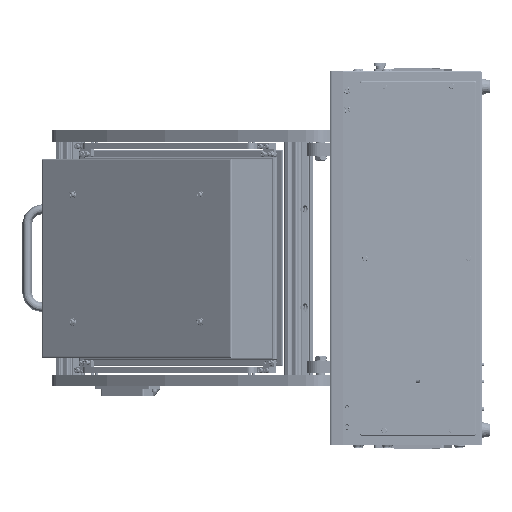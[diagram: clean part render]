
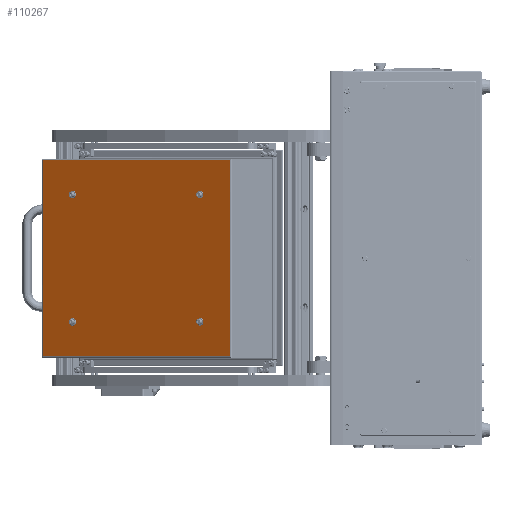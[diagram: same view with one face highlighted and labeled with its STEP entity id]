
A CAD part, left-side view. The second image highlights one B-rep face of the part: STEP entity #110267.
In plain terms, the highlighted planar face has unit normal (-0.819, 0.574, 0) as drawn and (0, 0, -1) by its records, which use the part's own axes.
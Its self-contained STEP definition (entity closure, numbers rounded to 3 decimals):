
#2339 = CARTESIAN_POINT ( 'NONE',  ( 80.75, 252.5, -102. ) ) ;
#3651 = FACE_BOUND ( 'NONE', #127954, .T. ) ;
#6532 = ORIENTED_EDGE ( 'NONE', *, *, #79761, .F. ) ;
#15779 = DIRECTION ( 'NONE',  ( 0., 0., -1. ) ) ;
#19700 = EDGE_CURVE ( 'NONE', #120545, #231350, #115172, .T. ) ;
#22842 = CIRCLE ( 'NONE', #53194, 2.25 ) ;
#27577 = DIRECTION ( 'NONE',  ( 1., 0., 0. ) ) ;
#28135 = ORIENTED_EDGE ( 'NONE', *, *, #161554, .F. ) ;
#29169 = VERTEX_POINT ( 'NONE', #233853 ) ;
#29244 = EDGE_LOOP ( 'NONE', ( #112677, #6532 ) ) ;
#34181 = CARTESIAN_POINT ( 'NONE',  ( 85.25, 252.5, -102. ) ) ;
#34829 = DIRECTION ( 'NONE',  ( -1., 0., 0. ) ) ;
#36969 = ORIENTED_EDGE ( 'NONE', *, *, #67360, .F. ) ;
#38179 = CARTESIAN_POINT ( 'NONE',  ( -128., 2., -102. ) ) ;
#49211 = CARTESIAN_POINT ( 'NONE',  ( 128., 2., -102. ) ) ;
#49841 = CARTESIAN_POINT ( 'NONE',  ( -130., 2., -102. ) ) ;
#50093 = CIRCLE ( 'NONE', #235250, 2.25 ) ;
#52053 = EDGE_LOOP ( 'NONE', ( #28135, #36969 ) ) ;
#53194 = AXIS2_PLACEMENT_3D ( 'NONE', #249598, #247684, #142038 ) ;
#54207 = FACE_BOUND ( 'NONE', #191161, .T. ) ;
#54550 = EDGE_CURVE ( 'NONE', #121138, #120545, #70105, .T. ) ;
#57553 = DIRECTION ( 'NONE',  ( 0., 0., -1. ) ) ;
#58144 = AXIS2_PLACEMENT_3D ( 'NONE', #59351, #272670, #251917 ) ;
#59351 = CARTESIAN_POINT ( 'NONE',  ( -83., 252.5, -102. ) ) ;
#63270 = CARTESIAN_POINT ( 'NONE',  ( 128., 302., -102. ) ) ;
#67360 = EDGE_CURVE ( 'NONE', #118891, #181905, #50093, .T. ) ;
#69364 = VERTEX_POINT ( 'NONE', #34181 ) ;
#70105 = LINE ( 'NONE', #63270, #198348 ) ;
#77289 = CARTESIAN_POINT ( 'NONE',  ( 83., 252.5, -102. ) ) ;
#79761 = EDGE_CURVE ( 'NONE', #69364, #202149, #124212, .T. ) ;
#80881 = DIRECTION ( 'NONE',  ( 0., 0., -1. ) ) ;
#83994 = EDGE_CURVE ( 'NONE', #117389, #29169, #119430, .T. ) ;
#84130 = ORIENTED_EDGE ( 'NONE', *, *, #204993, .F. ) ;
#85510 = AXIS2_PLACEMENT_3D ( 'NONE', #205550, #186573, #248879 ) ;
#87402 = CARTESIAN_POINT ( 'NONE',  ( -83., 49.5, -102. ) ) ;
#88847 = CARTESIAN_POINT ( 'NONE',  ( -80.75, 49.5, -102. ) ) ;
#89268 = DIRECTION ( 'NONE',  ( 0., 0., -1. ) ) ;
#91592 = DIRECTION ( 'NONE',  ( -1., 0., 0. ) ) ;
#99354 = CIRCLE ( 'NONE', #204366, 2.25 ) ;
#99616 = EDGE_LOOP ( 'NONE', ( #218861, #242555, #184625, #141741 ) ) ;
#99686 = CARTESIAN_POINT ( 'NONE',  ( -130., 300., -102. ) ) ;
#101363 = EDGE_CURVE ( 'NONE', #231350, #222875, #170541, .T. ) ;
#101474 = FACE_BOUND ( 'NONE', #29244, .T. ) ;
#103401 = CARTESIAN_POINT ( 'NONE',  ( 83., 252.5, -102. ) ) ;
#105749 = LINE ( 'NONE', #99686, #176812 ) ;
#110254 = CARTESIAN_POINT ( 'NONE',  ( -85.25, 49.5, -102. ) ) ;
#110267 = ADVANCED_FACE ( 'NONE', ( #226505, #3651, #169132, #101474, #54207 ), #115236, .F. ) ;
#112677 = ORIENTED_EDGE ( 'NONE', *, *, #244384, .F. ) ;
#112920 = VECTOR ( 'NONE', #210888, 1000. ) ;
#114145 = DIRECTION ( 'NONE',  ( 0., 0., -1. ) ) ;
#115172 = LINE ( 'NONE', #49841, #196352 ) ;
#115236 = PLANE ( 'NONE',  #242995 ) ;
#117389 = VERTEX_POINT ( 'NONE', #145242 ) ;
#118891 = VERTEX_POINT ( 'NONE', #144254 ) ;
#119430 = CIRCLE ( 'NONE', #85510, 2.25 ) ;
#120545 = VERTEX_POINT ( 'NONE', #49211 ) ;
#121138 = VERTEX_POINT ( 'NONE', #137561 ) ;
#123263 = DIRECTION ( 'NONE',  ( 1., 0., 0. ) ) ;
#124212 = CIRCLE ( 'NONE', #250990, 2.25 ) ;
#124361 = CIRCLE ( 'NONE', #58144, 2.25 ) ;
#127429 = DIRECTION ( 'NONE',  ( 0., -1., 0. ) ) ;
#127954 = EDGE_LOOP ( 'NONE', ( #84130, #164700 ) ) ;
#128143 = CIRCLE ( 'NONE', #150905, 2.25 ) ;
#128644 = AXIS2_PLACEMENT_3D ( 'NONE', #87402, #89268, #175258 ) ;
#136439 = ORIENTED_EDGE ( 'NONE', *, *, #203518, .F. ) ;
#137561 = CARTESIAN_POINT ( 'NONE',  ( 128., 300., -102. ) ) ;
#141741 = ORIENTED_EDGE ( 'NONE', *, *, #268357, .T. ) ;
#142038 = DIRECTION ( 'NONE',  ( -1., 0., 0. ) ) ;
#144254 = CARTESIAN_POINT ( 'NONE',  ( 85.25, 49.5, -102. ) ) ;
#145242 = CARTESIAN_POINT ( 'NONE',  ( -80.75, 252.5, -102. ) ) ;
#148876 = CIRCLE ( 'NONE', #128644, 2.25 ) ;
#150905 = AXIS2_PLACEMENT_3D ( 'NONE', #229237, #80881, #273549 ) ;
#161554 = EDGE_CURVE ( 'NONE', #181905, #118891, #22842, .T. ) ;
#164700 = ORIENTED_EDGE ( 'NONE', *, *, #225100, .F. ) ;
#169132 = FACE_BOUND ( 'NONE', #52053, .T. ) ;
#169272 = CARTESIAN_POINT ( 'NONE',  ( -128., 302., -102. ) ) ;
#170541 = LINE ( 'NONE', #169272, #112920 ) ;
#175258 = DIRECTION ( 'NONE',  ( -1., 0., 0. ) ) ;
#175883 = CARTESIAN_POINT ( 'NONE',  ( -130., 302., -102. ) ) ;
#176812 = VECTOR ( 'NONE', #123263, 1000. ) ;
#177622 = CARTESIAN_POINT ( 'NONE',  ( 83., 49.5, -102. ) ) ;
#181905 = VERTEX_POINT ( 'NONE', #212433 ) ;
#184625 = ORIENTED_EDGE ( 'NONE', *, *, #101363, .T. ) ;
#186573 = DIRECTION ( 'NONE',  ( 0., 0., -1. ) ) ;
#188445 = DIRECTION ( 'NONE',  ( -1., 0., 0. ) ) ;
#191021 = CARTESIAN_POINT ( 'NONE',  ( -128., 300., -102. ) ) ;
#191161 = EDGE_LOOP ( 'NONE', ( #136439, #240311 ) ) ;
#196352 = VECTOR ( 'NONE', #265909, 1000. ) ;
#198348 = VECTOR ( 'NONE', #127429, 1000. ) ;
#202149 = VERTEX_POINT ( 'NONE', #2339 ) ;
#203518 = EDGE_CURVE ( 'NONE', #29169, #117389, #124361, .T. ) ;
#204366 = AXIS2_PLACEMENT_3D ( 'NONE', #103401, #15779, #188445 ) ;
#204993 = EDGE_CURVE ( 'NONE', #223476, #223043, #128143, .T. ) ;
#205550 = CARTESIAN_POINT ( 'NONE',  ( -83., 252.5, -102. ) ) ;
#210888 = DIRECTION ( 'NONE',  ( 0., 1., 0. ) ) ;
#212433 = CARTESIAN_POINT ( 'NONE',  ( 80.75, 49.5, -102. ) ) ;
#218861 = ORIENTED_EDGE ( 'NONE', *, *, #54550, .T. ) ;
#222875 = VERTEX_POINT ( 'NONE', #191021 ) ;
#223043 = VERTEX_POINT ( 'NONE', #88847 ) ;
#223476 = VERTEX_POINT ( 'NONE', #110254 ) ;
#225100 = EDGE_CURVE ( 'NONE', #223043, #223476, #148876, .T. ) ;
#226505 = FACE_OUTER_BOUND ( 'NONE', #99616, .T. ) ;
#229237 = CARTESIAN_POINT ( 'NONE',  ( -83., 49.5, -102. ) ) ;
#231350 = VERTEX_POINT ( 'NONE', #38179 ) ;
#233853 = CARTESIAN_POINT ( 'NONE',  ( -85.25, 252.5, -102. ) ) ;
#235250 = AXIS2_PLACEMENT_3D ( 'NONE', #177622, #114145, #91592 ) ;
#240311 = ORIENTED_EDGE ( 'NONE', *, *, #83994, .F. ) ;
#240981 = DIRECTION ( 'NONE',  ( 0., 0., 1. ) ) ;
#242555 = ORIENTED_EDGE ( 'NONE', *, *, #19700, .T. ) ;
#242995 = AXIS2_PLACEMENT_3D ( 'NONE', #175883, #240981, #27577 ) ;
#244384 = EDGE_CURVE ( 'NONE', #202149, #69364, #99354, .T. ) ;
#247684 = DIRECTION ( 'NONE',  ( 0., 0., -1. ) ) ;
#248879 = DIRECTION ( 'NONE',  ( -1., 0., 0. ) ) ;
#249598 = CARTESIAN_POINT ( 'NONE',  ( 83., 49.5, -102. ) ) ;
#250990 = AXIS2_PLACEMENT_3D ( 'NONE', #77289, #57553, #34829 ) ;
#251917 = DIRECTION ( 'NONE',  ( -1., 0., 0. ) ) ;
#265909 = DIRECTION ( 'NONE',  ( -1., 0., 0. ) ) ;
#268357 = EDGE_CURVE ( 'NONE', #222875, #121138, #105749, .T. ) ;
#272670 = DIRECTION ( 'NONE',  ( 0., 0., -1. ) ) ;
#273549 = DIRECTION ( 'NONE',  ( -1., 0., 0. ) ) ;
